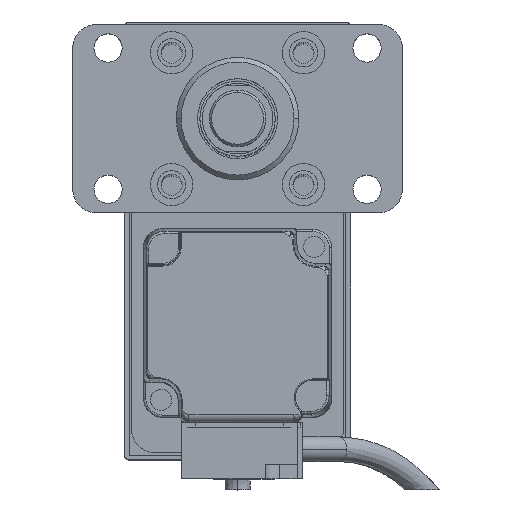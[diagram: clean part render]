
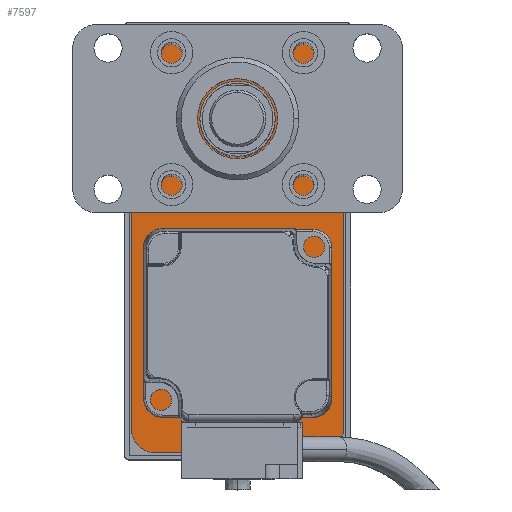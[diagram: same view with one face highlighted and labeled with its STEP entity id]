
A CAD part, top view. The second image highlights one B-rep face of the part: STEP entity #7597.
In plain terms, the highlighted planar face has unit normal (0, 0, 1).
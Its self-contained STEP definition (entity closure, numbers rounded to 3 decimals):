
#433 = AXIS2_PLACEMENT_3D ( 'NONE', #23545, #16199, #24149 ) ;
#1292 = ORIENTED_EDGE ( 'NONE', *, *, #23202, .T. ) ;
#1312 = CIRCLE ( 'NONE', #18609, 5. ) ;
#1505 = CIRCLE ( 'NONE', #17498, 5. ) ;
#1563 = CARTESIAN_POINT ( 'NONE',  ( -22.5, -40., 10. ) ) ;
#1884 = VECTOR ( 'NONE', #22711, 1000. ) ;
#1909 = VECTOR ( 'NONE', #17560, 1000. ) ;
#2857 = CARTESIAN_POINT ( 'NONE',  ( -17.5, -40., 10. ) ) ;
#2876 = ORIENTED_EDGE ( 'NONE', *, *, #23997, .T. ) ;
#3056 = EDGE_CURVE ( 'NONE', #7950, #13950, #1505, .T. ) ;
#4189 = ORIENTED_EDGE ( 'NONE', *, *, #6323, .T. ) ;
#4603 = CARTESIAN_POINT ( 'NONE',  ( -22.5, 40., 10. ) ) ;
#5472 = CARTESIAN_POINT ( 'NONE',  ( 17.5, -45., 10. ) ) ;
#5536 = VECTOR ( 'NONE', #5553, 1000. ) ;
#5553 = DIRECTION ( 'NONE',  ( 1., 0., 0. ) ) ;
#5845 = EDGE_CURVE ( 'NONE', #13327, #8456, #8929, .T. ) ;
#6163 = ORIENTED_EDGE ( 'NONE', *, *, #3056, .T. ) ;
#6232 = CIRCLE ( 'NONE', #13082, 5. ) ;
#6323 = EDGE_CURVE ( 'NONE', #23352, #7726, #6232, .T. ) ;
#6477 = LINE ( 'NONE', #15753, #8591 ) ;
#7254 = CARTESIAN_POINT ( 'NONE',  ( 17.5, 45., 10. ) ) ;
#7597 = ADVANCED_FACE ( 'NONE', ( #11287 ), #14092, .T. ) ;
#7726 = VERTEX_POINT ( 'NONE', #18748 ) ;
#7941 = EDGE_CURVE ( 'NONE', #12607, #7950, #6477, .T. ) ;
#7950 = VERTEX_POINT ( 'NONE', #13144 ) ;
#8213 = DIRECTION ( 'NONE',  ( 1., 0., 0. ) ) ;
#8291 = CARTESIAN_POINT ( 'NONE',  ( 17.5, 40., 10. ) ) ;
#8456 = VERTEX_POINT ( 'NONE', #10710 ) ;
#8591 = VECTOR ( 'NONE', #13805, 1000. ) ;
#8929 = CIRCLE ( 'NONE', #21193, 5. ) ;
#9173 = CARTESIAN_POINT ( 'NONE',  ( -22.5, -45., 10. ) ) ;
#10710 = CARTESIAN_POINT ( 'NONE',  ( 22.5, -40., 10. ) ) ;
#10920 = LINE ( 'NONE', #13661, #5536 ) ;
#11287 = FACE_OUTER_BOUND ( 'NONE', #13265, .T. ) ;
#12486 = DIRECTION ( 'NONE',  ( 1., 0., 0. ) ) ;
#12607 = VERTEX_POINT ( 'NONE', #7254 ) ;
#12680 = LINE ( 'NONE', #9173, #1884 ) ;
#12928 = CARTESIAN_POINT ( 'NONE',  ( 17.5, -40., 10. ) ) ;
#13082 = AXIS2_PLACEMENT_3D ( 'NONE', #2857, #14670, #12486 ) ;
#13144 = CARTESIAN_POINT ( 'NONE',  ( -17.5, 45., 10. ) ) ;
#13265 = EDGE_LOOP ( 'NONE', ( #1292, #17727, #19294, #6163, #2876, #4189, #18004, #20543 ) ) ;
#13327 = VERTEX_POINT ( 'NONE', #5472 ) ;
#13661 = CARTESIAN_POINT ( 'NONE',  ( 22.5, -45., 10. ) ) ;
#13805 = DIRECTION ( 'NONE',  ( -1., 0., 0. ) ) ;
#13950 = VERTEX_POINT ( 'NONE', #4603 ) ;
#14092 = PLANE ( 'NONE',  #433 ) ;
#14461 = DIRECTION ( 'NONE',  ( 1., 0., 0. ) ) ;
#14670 = DIRECTION ( 'NONE',  ( 0., 0., 1. ) ) ;
#15753 = CARTESIAN_POINT ( 'NONE',  ( 22.5, 45., 10. ) ) ;
#16110 = DIRECTION ( 'NONE',  ( 0., 0., 1. ) ) ;
#16161 = EDGE_CURVE ( 'NONE', #7726, #13327, #10920, .T. ) ;
#16199 = DIRECTION ( 'NONE',  ( 0., 0., 1. ) ) ;
#16287 = EDGE_CURVE ( 'NONE', #16665, #12607, #1312, .T. ) ;
#16665 = VERTEX_POINT ( 'NONE', #19074 ) ;
#16753 = DIRECTION ( 'NONE',  ( 0., 0., 1. ) ) ;
#17498 = AXIS2_PLACEMENT_3D ( 'NONE', #24217, #16753, #20426 ) ;
#17560 = DIRECTION ( 'NONE',  ( 0., 1., 0. ) ) ;
#17727 = ORIENTED_EDGE ( 'NONE', *, *, #16287, .T. ) ;
#18004 = ORIENTED_EDGE ( 'NONE', *, *, #16161, .T. ) ;
#18524 = DIRECTION ( 'NONE',  ( 0., 0., 1. ) ) ;
#18609 = AXIS2_PLACEMENT_3D ( 'NONE', #8291, #16110, #8213 ) ;
#18748 = CARTESIAN_POINT ( 'NONE',  ( -17.5, -45., 10. ) ) ;
#19074 = CARTESIAN_POINT ( 'NONE',  ( 22.5, 40., 10. ) ) ;
#19294 = ORIENTED_EDGE ( 'NONE', *, *, #7941, .T. ) ;
#20426 = DIRECTION ( 'NONE',  ( 1., 0., 0. ) ) ;
#20543 = ORIENTED_EDGE ( 'NONE', *, *, #5845, .T. ) ;
#21193 = AXIS2_PLACEMENT_3D ( 'NONE', #12928, #18524, #14461 ) ;
#22711 = DIRECTION ( 'NONE',  ( 0., -1., 0. ) ) ;
#23202 = EDGE_CURVE ( 'NONE', #8456, #16665, #23580, .T. ) ;
#23352 = VERTEX_POINT ( 'NONE', #1563 ) ;
#23545 = CARTESIAN_POINT ( 'NONE',  ( 0., 0., 10. ) ) ;
#23580 = LINE ( 'NONE', #24660, #1909 ) ;
#23997 = EDGE_CURVE ( 'NONE', #13950, #23352, #12680, .T. ) ;
#24149 = DIRECTION ( 'NONE',  ( 1., 0., 0. ) ) ;
#24217 = CARTESIAN_POINT ( 'NONE',  ( -17.5, 40., 10. ) ) ;
#24660 = CARTESIAN_POINT ( 'NONE',  ( 22.5, -45., 10. ) ) ;
